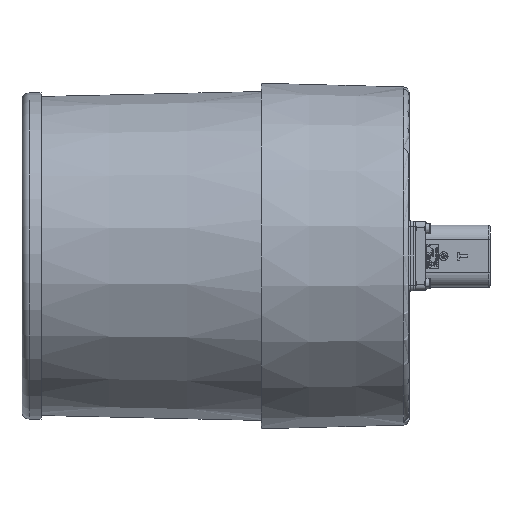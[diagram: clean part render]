
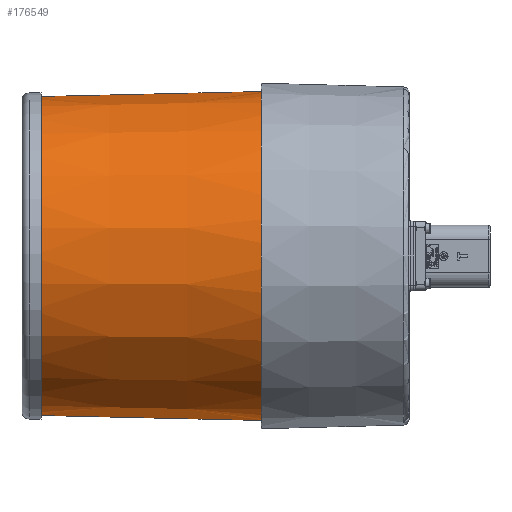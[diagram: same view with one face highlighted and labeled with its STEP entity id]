
A CAD part, left-side view. The second image highlights one B-rep face of the part: STEP entity #176549.
In plain terms, the highlighted conical face has half-angle 1.3 degrees and reference radius 56.18 mm.
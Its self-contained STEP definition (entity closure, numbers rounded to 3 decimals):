
#2522 = EDGE_CURVE ( 'NONE', #112784, #18152, #87126, .T. ) ;
#3757 = DIRECTION ( 'NONE',  ( 0., -1., 0.023 ) ) ;
#18152 = VERTEX_POINT ( 'NONE', #115663 ) ;
#20586 = DIRECTION ( 'NONE',  ( 0., 0., 1. ) ) ;
#25960 = CIRCLE ( 'NONE', #124684, 56.18 ) ;
#34900 = DIRECTION ( 'NONE',  ( 0., 0., 1. ) ) ;
#35924 = EDGE_CURVE ( 'NONE', #238615, #175441, #213372, .T. ) ;
#45010 = VECTOR ( 'NONE', #3757, 1000. ) ;
#52590 = AXIS2_PLACEMENT_3D ( 'NONE', #94586, #136135, #20586 ) ;
#55310 = ORIENTED_EDGE ( 'NONE', *, *, #137961, .T. ) ;
#66298 = AXIS2_PLACEMENT_3D ( 'NONE', #211988, #105860, #125977 ) ;
#72269 = CARTESIAN_POINT ( 'NONE',  ( 0., -81.4, 0. ) ) ;
#85143 = VERTEX_POINT ( 'NONE', #152262 ) ;
#85921 = CARTESIAN_POINT ( 'NONE',  ( 0., -81.4, 0. ) ) ;
#87126 = CIRCLE ( 'NONE', #194371, 56.18 ) ;
#88448 = DIRECTION ( 'NONE',  ( 0., 0., 1. ) ) ;
#94586 = CARTESIAN_POINT ( 'NONE',  ( 0., -81.4, 0. ) ) ;
#95962 = CIRCLE ( 'NONE', #134663, 54.378 ) ;
#99329 = DIRECTION ( 'NONE',  ( 0., 1., 0. ) ) ;
#101923 = CIRCLE ( 'NONE', #131826, 56.18 ) ;
#104545 = VERTEX_POINT ( 'NONE', #241284 ) ;
#105860 = DIRECTION ( 'NONE',  ( 0., -1., 0. ) ) ;
#108585 = DIRECTION ( 'NONE',  ( 0., -1., -0.023 ) ) ;
#108743 = CARTESIAN_POINT ( 'NONE',  ( -52.208, -81.4, -20.747 ) ) ;
#108819 = DIRECTION ( 'NONE',  ( 0., 1., 0. ) ) ;
#111160 = FACE_OUTER_BOUND ( 'NONE', #200316, .T. ) ;
#112784 = VERTEX_POINT ( 'NONE', #108743 ) ;
#114517 = EDGE_CURVE ( 'NONE', #18152, #142781, #160040, .T. ) ;
#115663 = CARTESIAN_POINT ( 'NONE',  ( -52.208, -81.4, 20.747 ) ) ;
#124684 = AXIS2_PLACEMENT_3D ( 'NONE', #72269, #130013, #88448 ) ;
#125977 = DIRECTION ( 'NONE',  ( 0., 0., -1. ) ) ;
#130013 = DIRECTION ( 'NONE',  ( 0., 1., 0. ) ) ;
#131826 = AXIS2_PLACEMENT_3D ( 'NONE', #158705, #164031, #203022 ) ;
#134304 = ORIENTED_EDGE ( 'NONE', *, *, #204924, .T. ) ;
#134663 = AXIS2_PLACEMENT_3D ( 'NONE', #182746, #99329, #34900 ) ;
#136135 = DIRECTION ( 'NONE',  ( 0., 1., 0. ) ) ;
#137961 = EDGE_CURVE ( 'NONE', #142781, #186589, #101923, .T. ) ;
#142781 = VERTEX_POINT ( 'NONE', #209575 ) ;
#143472 = CONICAL_SURFACE ( 'NONE', #66298, 56.18, 0.023 ) ;
#147471 = ORIENTED_EDGE ( 'NONE', *, *, #114517, .T. ) ;
#152049 = CIRCLE ( 'NONE', #255104, 56.18 ) ;
#152262 = CARTESIAN_POINT ( 'NONE',  ( 0., -2., 54.378 ) ) ;
#158705 = CARTESIAN_POINT ( 'NONE',  ( 0., -81.4, 0. ) ) ;
#160040 = CIRCLE ( 'NONE', #52590, 56.18 ) ;
#164031 = DIRECTION ( 'NONE',  ( 0., 1., 0. ) ) ;
#166409 = EDGE_CURVE ( 'NONE', #85143, #186589, #185243, .T. ) ;
#169369 = DIRECTION ( 'NONE',  ( 0., 0., 1. ) ) ;
#175441 = VERTEX_POINT ( 'NONE', #199974 ) ;
#176549 = ADVANCED_FACE ( 'NONE', ( #111160 ), #143472, .T. ) ;
#182643 = ORIENTED_EDGE ( 'NONE', *, *, #166409, .F. ) ;
#182746 = CARTESIAN_POINT ( 'NONE',  ( 0., -2., 0. ) ) ;
#184113 = ORIENTED_EDGE ( 'NONE', *, *, #35924, .T. ) ;
#185243 = LINE ( 'NONE', #225508, #45010 ) ;
#186589 = VERTEX_POINT ( 'NONE', #231967 ) ;
#187455 = CARTESIAN_POINT ( 'NONE',  ( 0., -2., -54.378 ) ) ;
#194371 = AXIS2_PLACEMENT_3D ( 'NONE', #85921, #249828, #212154 ) ;
#199974 = CARTESIAN_POINT ( 'NONE',  ( 0., -81.4, -56.18 ) ) ;
#200316 = EDGE_LOOP ( 'NONE', ( #182643, #209454, #184113, #248215, #134304, #220562, #147471, #55310 ) ) ;
#203022 = DIRECTION ( 'NONE',  ( 0., 0., 1. ) ) ;
#204924 = EDGE_CURVE ( 'NONE', #104545, #112784, #152049, .T. ) ;
#209454 = ORIENTED_EDGE ( 'NONE', *, *, #258637, .F. ) ;
#209575 = CARTESIAN_POINT ( 'NONE',  ( -20.747, -81.4, 52.208 ) ) ;
#211988 = CARTESIAN_POINT ( 'NONE',  ( 0., -81.4, 0. ) ) ;
#212051 = CARTESIAN_POINT ( 'NONE',  ( 0., -81.4, -56.18 ) ) ;
#212154 = DIRECTION ( 'NONE',  ( 0., 0., 1. ) ) ;
#213372 = LINE ( 'NONE', #212051, #232424 ) ;
#220562 = ORIENTED_EDGE ( 'NONE', *, *, #2522, .T. ) ;
#225508 = CARTESIAN_POINT ( 'NONE',  ( 0., -81.4, 56.18 ) ) ;
#230055 = EDGE_CURVE ( 'NONE', #175441, #104545, #25960, .T. ) ;
#231967 = CARTESIAN_POINT ( 'NONE',  ( 0., -81.4, 56.18 ) ) ;
#232424 = VECTOR ( 'NONE', #108585, 1000. ) ;
#238615 = VERTEX_POINT ( 'NONE', #187455 ) ;
#241284 = CARTESIAN_POINT ( 'NONE',  ( -20.747, -81.4, -52.208 ) ) ;
#248215 = ORIENTED_EDGE ( 'NONE', *, *, #230055, .T. ) ;
#249828 = DIRECTION ( 'NONE',  ( 0., 1., 0. ) ) ;
#255104 = AXIS2_PLACEMENT_3D ( 'NONE', #255287, #108819, #169369 ) ;
#255287 = CARTESIAN_POINT ( 'NONE',  ( 0., -81.4, 0. ) ) ;
#258637 = EDGE_CURVE ( 'NONE', #238615, #85143, #95962, .T. ) ;
